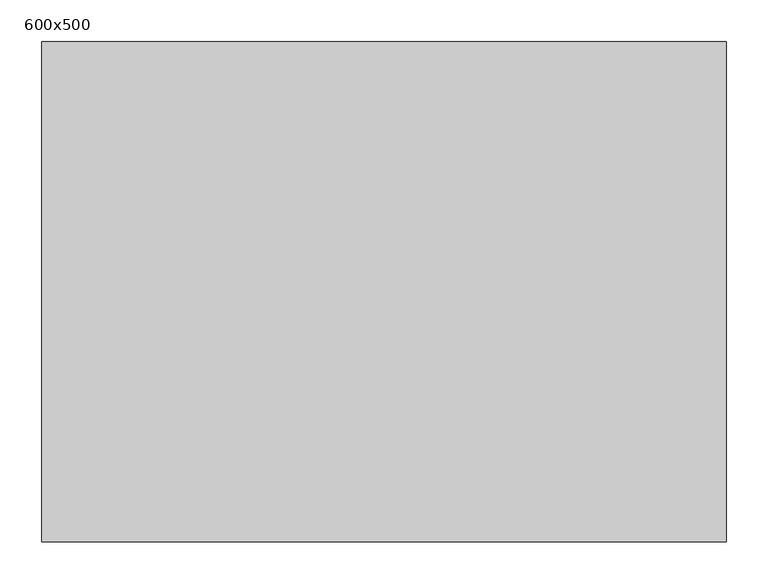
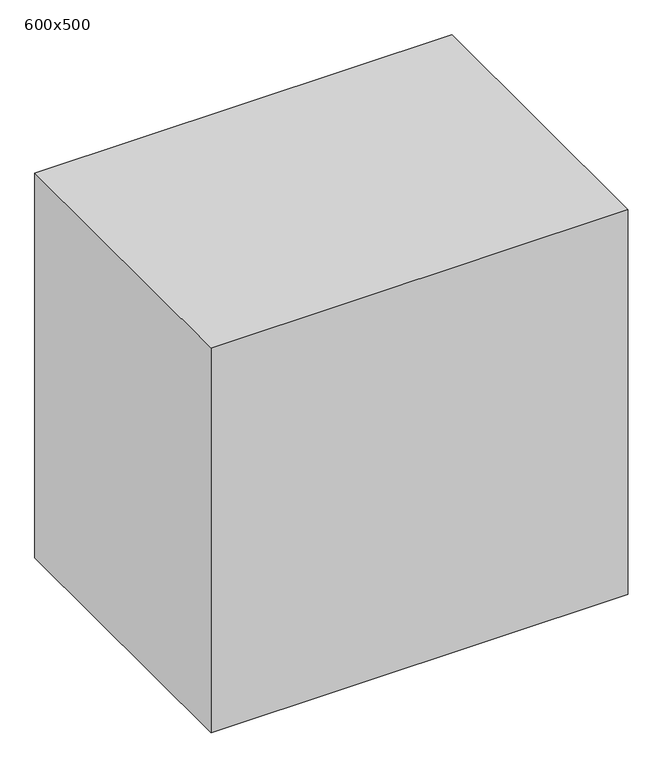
"""IFC4 building model written with IfcOpenShell, lengths in millimetres: flow terminal geometry, SP_раковина_LEG_настраиваемая : 600x500."""

import ifcopenshell
import ifcopenshell.guid

model = None  # the IFC model being written
_history = None  # IfcOwnerHistory: only IFC2X3 demands one
_inside = {}  # id of a spatial element -> (the spatial element, [elements in it])
_under = {}  # id of a project, library or spatial element -> (it, [spatial elements below it])
_declared = {}  # id of a project -> (the project, [libraries it declares])
_typed = {}  # id of a type object -> (the type object, [elements of that type])
_made_of = {}  # id of a material, layer set ... -> (it, [elements and type objects made of it])


def new_model(schema):
    """Start an empty IFC model of exactly this schema.

    Asked for "IFC4X3", IfcOpenShell would pick the latest addendum, in which some entities
    have other attributes; the version numbers below select the first issue.
    IFC2X3 requires an IfcOwnerHistory on every rooted entity: one is made here for all.
    """
    global model, _history
    if schema == "IFC4X3":
        model = ifcopenshell.file(schema_version=(4, 3, 0, 0))
    else:
        model = ifcopenshell.file(schema=schema)
    _inside.clear()
    _under.clear()
    _declared.clear()
    _typed.clear()
    _made_of.clear()
    _history = None
    if model.schema == "IFC2X3":
        org = make("IfcOrganization", Name="unknown")
        user = make(
            "IfcPersonAndOrganization",
            ThePerson=make("IfcPerson", FamilyName="unknown"),
            TheOrganization=org,
        )
        app = make(
            "IfcApplication",
            ApplicationDeveloper=org,
            Version="unknown",
            ApplicationFullName="unknown",
            ApplicationIdentifier="unknown",
        )
        _history = make(
            "IfcOwnerHistory",
            OwningUser=user,
            OwningApplication=app,
            ChangeAction="ADDED",
            CreationDate=0,
        )
    return model


def make(cls, **values):
    """One entity of the class cls with the attributes given. An attribute that is None is left unset."""
    return model.create_entity(
        cls, **{name: value for name, value in values.items() if value is not None}
    )


def rooted(cls, **values):
    """An entity with a GlobalId (a new one), such as an element, a storey or a relation."""
    return make(cls, GlobalId=ifcopenshell.guid.new(), OwnerHistory=_history, **values)


def si_unit(unit_type, name, prefix=None):
    """IfcSIUnit, for example si_unit("LENGTHUNIT", "METRE", prefix="MILLI")."""
    return make("IfcSIUnit", UnitType=unit_type, Prefix=prefix, Name=name)


def assignment(units):
    """IfcUnitAssignment: the units of a project."""
    return None if units is None else make("IfcUnitAssignment", Units=units)


def point(xyz):
    """IfcCartesianPoint."""
    return None if xyz is None else make("IfcCartesianPoint", Coordinates=xyz)


def direction(xyz):
    """IfcDirection."""
    return None if xyz is None else make("IfcDirection", DirectionRatios=xyz)


def frame(location, z_axis=None, x_axis=None):
    """IfcAxis2Placement3D, a coordinate frame: its origin and axes. An axis left out is left unset."""
    return make(
        "IfcAxis2Placement3D",
        Location=point(location),
        Axis=direction(z_axis),
        RefDirection=direction(x_axis),
    )


def origin():
    """The frame at (0, 0, 0) with its axes left unset."""
    return frame((0.0, 0.0, 0.0))


def origin_with_axes():
    """The frame at (0, 0, 0) with the z axis (0, 0, 1) and the x axis (1, 0, 0) written out."""
    return frame((0.0, 0.0, 0.0), z_axis=(0.0, 0.0, 1.0), x_axis=(1.0, 0.0, 0.0))


def place(relative_to, where):
    """IfcLocalPlacement: puts the frame where relative to a parent placement (None: the world)."""
    return make(
        "IfcLocalPlacement", PlacementRelTo=relative_to, RelativePlacement=where
    )


def context(
    kind, dimensions, precision=None, world=None, true_north=None, identifier=None
):
    """IfcGeometricRepresentationContext, for example the 3D "Model" context."""
    return make(
        "IfcGeometricRepresentationContext",
        ContextIdentifier=identifier,
        ContextType=kind,
        CoordinateSpaceDimension=dimensions,
        Precision=precision,
        WorldCoordinateSystem=world,
        TrueNorth=true_north,
    )


def project(units=None, contexts=None):
    """IfcProject with its units and contexts."""
    return rooted(
        "IfcProject",
        Name="project",
        RepresentationContexts=contexts,
        UnitsInContext=assignment(units),
    )


def spatial(cls, under=None, at=None, **own):
    """A site, building, storey or space (cls), placed at a placement, below another one or the project."""
    s = rooted(cls, ObjectPlacement=at, **own)
    if under is not None:
        _under.setdefault(under.id(), (under, []))[1].append(s)
    return s


def polyline(points):
    """IfcPolyline through the points."""
    return make("IfcPolyline", Points=[point(p) for p in points])


def outline(outer, holes=None, kind="AREA"):
    """IfcArbitraryClosedProfileDef: a profile drawn as a closed curve; with holes, ...WithVoids."""
    if holes is None:
        return make("IfcArbitraryClosedProfileDef", ProfileType=kind, OuterCurve=outer)
    return make(
        "IfcArbitraryProfileDefWithVoids",
        ProfileType=kind,
        OuterCurve=outer,
        InnerCurves=holes,
    )


def extrude(swept, where, along, depth):
    """IfcExtrudedAreaSolid: the profile swept, set in the frame where, extruded along a direction by depth."""
    return make(
        "IfcExtrudedAreaSolid",
        SweptArea=swept,
        Position=where,
        ExtrudedDirection=direction(along),
        Depth=depth,
    )


def shape(context_of_items, identifier, shape_type, items):
    """IfcShapeRepresentation: the items that make up one representation, for example the "Body"."""
    return make(
        "IfcShapeRepresentation",
        ContextOfItems=context_of_items,
        RepresentationIdentifier=identifier,
        RepresentationType=shape_type,
        Items=items,
    )


def source(mapping_origin, context_of_items, identifier, shape_type, items):
    """IfcRepresentationMap: a shape defined once, which mapped items show again and again."""
    return make(
        "IfcRepresentationMap",
        MappingOrigin=mapping_origin,
        MappedRepresentation=shape(context_of_items, identifier, shape_type, items),
    )


def transform(
    local_origin,
    x_axis=None,
    y_axis=None,
    z_axis=None,
    scale=None,
    scale2=None,
    scale3=None,
    uniform=True,
):
    """IfcCartesianTransformationOperator3D, or its non-uniform kind. x_axis, y_axis, z_axis: its Axis1, 2, 3."""
    if uniform:
        return make(
            "IfcCartesianTransformationOperator3D",
            Axis1=direction(x_axis),
            Axis2=direction(y_axis),
            LocalOrigin=point(local_origin),
            Scale=scale,
            Axis3=direction(z_axis),
        )
    return make(
        "IfcCartesianTransformationOperator3DnonUniform",
        Axis1=direction(x_axis),
        Axis2=direction(y_axis),
        LocalOrigin=point(local_origin),
        Scale=scale,
        Axis3=direction(z_axis),
        Scale2=scale2,
        Scale3=scale3,
    )


def mapped(mapping_source, mapping_target):
    """IfcMappedItem: shows the shape of a source again, moved by a transform."""
    return make(
        "IfcMappedItem", MappingSource=mapping_source, MappingTarget=mapping_target
    )


def made_of(thing, what):
    """Note that an element or type object is made of a material, layer set ...; save() writes the relation."""
    if what is not None:
        _made_of.setdefault(what.id(), (what, []))[1].append(thing)
    return thing


def element(
    cls,
    number,
    at=None,
    inside=None,
    cuts=None,
    type_object=None,
    material=None,
    context=None,
    identifier="Body",
    shape_type=None,
    held_by="IfcProductDefinitionShape",
    body=None,
    shapes=None,
    **own,
):
    """One element of the class cls, such as IfcWall. Its Tag is "e" and its number.

    at: its placement. inside: the storey or other place that contains it. cuts: it is an
    opening in that element (IfcRelVoidsElement). A single representation is given by context,
    identifier, shape_type and body (its items); several are given by shapes. held_by: the class
    of the entity that holds the representations. save() writes the other relations.
    """
    e = rooted(cls, Tag="e%d" % number, ObjectPlacement=at, **own)
    if body is not None:
        shapes = [shape(context, identifier, shape_type, body)]
    if shapes is not None:
        e.Representation = make(held_by, Representations=shapes)
    if inside is not None:
        _inside.setdefault(inside.id(), (inside, []))[1].append(e)
    if cuts is not None:
        rooted(
            "IfcRelVoidsElement", RelatingBuildingElement=cuts, RelatedOpeningElement=e
        )
    if type_object is not None:
        _typed.setdefault(type_object.id(), (type_object, []))[1].append(e)
    return made_of(e, material)


def aggregate(whole, parts):
    """IfcRelAggregates: a whole, such as a stair, and the parts it consists of."""
    return rooted("IfcRelAggregates", RelatingObject=whole, RelatedObjects=parts)


def save(model, path):
    """Write the relations noted so far, then the file.

    IfcRelAggregates (storeys below a building ...), IfcRelContainedInSpatialStructure (elements
    in a storey), IfcRelDefinesByType, IfcRelAssociatesMaterial and IfcRelDeclares: one each for
    every whole, place, type object, material and project.
    """
    for whole, parts in _under.values():
        aggregate(whole, parts)
    for where, things in _inside.values():
        rooted(
            "IfcRelContainedInSpatialStructure",
            RelatedElements=things,
            RelatingStructure=where,
        )
    for kind, things in _typed.values():
        rooted("IfcRelDefinesByType", RelatedObjects=things, RelatingType=kind)
    for what, things in _made_of.values():
        rooted("IfcRelAssociatesMaterial", RelatedObjects=things, RelatingMaterial=what)
    for by, libraries in _declared.values():
        rooted("IfcRelDeclares", RelatingContext=by, RelatedDefinitions=libraries)
    model.write(path)


def flow_terminal_600x500_61b906ce(model_context):
    return source(origin(), model_context, "Body", "SweptSolid", [
        extrude(outline(polyline([(410.2557546, 0.0), (410.2557546, -600.0), (-410.2557546, -600.0), (-410.2557546, 0.0), (410.2557546, 0.0)])), origin_with_axes(), (0.0, 0.0, 1.0), 800.0),
    ])


if __name__ == "__main__":
    model = new_model("IFC4")
    model_context = context("Model", 3, world=origin())
    ifc_project = project(units=[si_unit("LENGTHUNIT", "METRE", prefix="MILLI")], contexts=[model_context])
    site = spatial("IfcSite", under=ifc_project)
    building = spatial("IfcBuilding", under=site)
    placement = place(None, origin())
    flow_terminal_600x500_shape = flow_terminal_600x500_61b906ce(model_context)
    element("IfcFlowTerminal", 1, ObjectType="SP_раковина_LEG_настраиваемая : 600x500", at=placement, inside=building, context=model_context, shape_type="MappedRepresentation", body=[
        mapped(flow_terminal_600x500_shape, transform((0.0, 0.0, 0.0), x_axis=(1.0, 0.0, 0.0), y_axis=(0.0, 1.0, 0.0), z_axis=(0.0, 0.0, 1.0))),
    ])
    save(model, "model.ifc")
